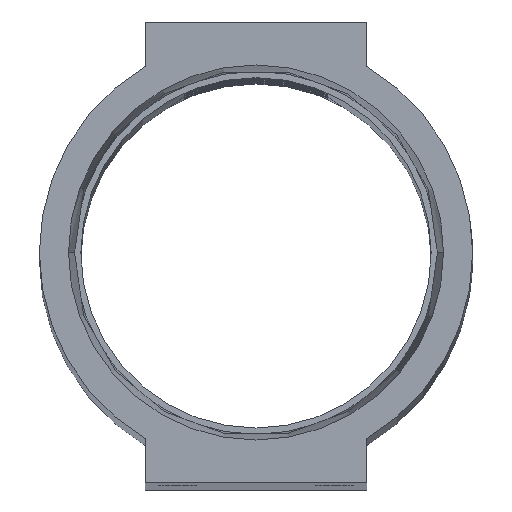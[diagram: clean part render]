
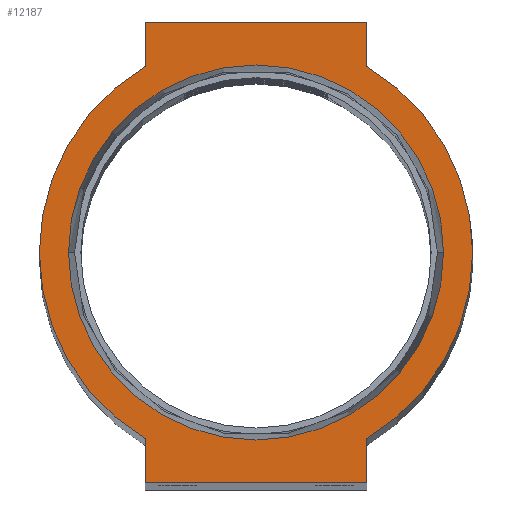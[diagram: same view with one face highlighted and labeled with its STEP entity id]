
A CAD part, top view. The second image highlights one B-rep face of the part: STEP entity #12187.
In plain terms, the highlighted planar face has unit normal (0, 0, 1).
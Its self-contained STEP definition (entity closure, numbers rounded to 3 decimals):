
#30 = VERTEX_POINT ( 'NONE', #8025 ) ;
#56 = ORIENTED_EDGE ( 'NONE', *, *, #9965, .T. ) ;
#72 = VERTEX_POINT ( 'NONE', #11130 ) ;
#82 = CARTESIAN_POINT ( 'NONE',  ( 0., 0., 0. ) ) ;
#160 = EDGE_CURVE ( 'NONE', #11906, #10627, #13453, .T. ) ;
#193 = EDGE_CURVE ( 'NONE', #13574, #7330, #330, .T. ) ;
#330 = LINE ( 'NONE', #12546, #8628 ) ;
#403 = ORIENTED_EDGE ( 'NONE', *, *, #12638, .T. ) ;
#655 = DIRECTION ( 'NONE',  ( 0., 0., 1. ) ) ;
#817 = AXIS2_PLACEMENT_3D ( 'NONE', #7957, #12325, #2494 ) ;
#863 = DIRECTION ( 'NONE',  ( 0., -1., 0. ) ) ;
#967 = ORIENTED_EDGE ( 'NONE', *, *, #13350, .T. ) ;
#1210 = CARTESIAN_POINT ( 'NONE',  ( 12., 25., 0. ) ) ;
#1326 = CARTESIAN_POINT ( 'NONE',  ( 0., 0., 0. ) ) ;
#1349 = ORIENTED_EDGE ( 'NONE', *, *, #12904, .F. ) ;
#1658 = DIRECTION ( 'NONE',  ( 1., 0., 0. ) ) ;
#1959 = EDGE_CURVE ( 'NONE', #5135, #30, #6470, .T. ) ;
#2039 = DIRECTION ( 'NONE',  ( 1., 0., 0. ) ) ;
#2112 = LINE ( 'NONE', #6640, #10724 ) ;
#2421 = AXIS2_PLACEMENT_3D ( 'NONE', #82, #5362, #10967 ) ;
#2494 = DIRECTION ( 'NONE',  ( 1., 0., 0. ) ) ;
#2522 = DIRECTION ( 'NONE',  ( 0., 1., 0. ) ) ;
#2624 = EDGE_LOOP ( 'NONE', ( #8074, #12745, #56, #13779, #5240, #967, #11526, #4794, #403 ) ) ;
#2712 = CARTESIAN_POINT ( 'NONE',  ( 12., -20.205, 0. ) ) ;
#2886 = VECTOR ( 'NONE', #2522, 1000. ) ;
#3345 = AXIS2_PLACEMENT_3D ( 'NONE', #7958, #6943, #11327 ) ;
#3409 = EDGE_LOOP ( 'NONE', ( #12599, #1349 ) ) ;
#4255 = AXIS2_PLACEMENT_3D ( 'NONE', #1326, #4569, #12315 ) ;
#4428 = EDGE_CURVE ( 'NONE', #7330, #5349, #12025, .T. ) ;
#4569 = DIRECTION ( 'NONE',  ( 0., 0., 1. ) ) ;
#4593 = VERTEX_POINT ( 'NONE', #4832 ) ;
#4709 = DIRECTION ( 'NONE',  ( 1., 0., 0. ) ) ;
#4794 = ORIENTED_EDGE ( 'NONE', *, *, #160, .T. ) ;
#4832 = CARTESIAN_POINT ( 'NONE',  ( 20.34, 0., 0. ) ) ;
#5135 = VERTEX_POINT ( 'NONE', #7195 ) ;
#5240 = ORIENTED_EDGE ( 'NONE', *, *, #1959, .T. ) ;
#5331 = CARTESIAN_POINT ( 'NONE',  ( -12., -25., 0. ) ) ;
#5349 = VERTEX_POINT ( 'NONE', #7900 ) ;
#5362 = DIRECTION ( 'NONE',  ( 0., 0., 1. ) ) ;
#5521 = VERTEX_POINT ( 'NONE', #6735 ) ;
#5822 = CARTESIAN_POINT ( 'NONE',  ( 12., 20.205, 0. ) ) ;
#6351 = CIRCLE ( 'NONE', #11613, 20.34 ) ;
#6470 = LINE ( 'NONE', #5331, #9774 ) ;
#6640 = CARTESIAN_POINT ( 'NONE',  ( -12., -25., 0. ) ) ;
#6720 = EDGE_CURVE ( 'NONE', #9802, #5135, #13456, .T. ) ;
#6735 = CARTESIAN_POINT ( 'NONE',  ( -20.34, 0., 0. ) ) ;
#6783 = DIRECTION ( 'NONE',  ( -1., 0., 0. ) ) ;
#6865 = EDGE_CURVE ( 'NONE', #4593, #5521, #6351, .T. ) ;
#6943 = DIRECTION ( 'NONE',  ( 0., 0., 1. ) ) ;
#7127 = EDGE_CURVE ( 'NONE', #72, #11906, #7990, .T. ) ;
#7137 = FACE_OUTER_BOUND ( 'NONE', #2624, .T. ) ;
#7195 = CARTESIAN_POINT ( 'NONE',  ( -12., -20.205, 0. ) ) ;
#7330 = VERTEX_POINT ( 'NONE', #1210 ) ;
#7581 = CARTESIAN_POINT ( 'NONE',  ( -12., 25., 0. ) ) ;
#7900 = CARTESIAN_POINT ( 'NONE',  ( -12., 25., 0. ) ) ;
#7944 = AXIS2_PLACEMENT_3D ( 'NONE', #11051, #13204, #4709 ) ;
#7957 = CARTESIAN_POINT ( 'NONE',  ( 0., 0., 0. ) ) ;
#7958 = CARTESIAN_POINT ( 'NONE',  ( 0., 0., 0. ) ) ;
#7990 = LINE ( 'NONE', #12357, #2886 ) ;
#8025 = CARTESIAN_POINT ( 'NONE',  ( -12., -25., 0. ) ) ;
#8074 = ORIENTED_EDGE ( 'NONE', *, *, #193, .T. ) ;
#8149 = CARTESIAN_POINT ( 'NONE',  ( -12., 25., 0. ) ) ;
#8395 = CARTESIAN_POINT ( 'NONE',  ( 23.5, 0., 0. ) ) ;
#8398 = CIRCLE ( 'NONE', #7944, 23.5 ) ;
#8424 = CARTESIAN_POINT ( 'NONE',  ( 0., 0., 0. ) ) ;
#8628 = VECTOR ( 'NONE', #10543, 1000. ) ;
#9309 = LINE ( 'NONE', #8149, #11579 ) ;
#9721 = CARTESIAN_POINT ( 'NONE',  ( -12., 20.205, 0. ) ) ;
#9774 = VECTOR ( 'NONE', #863, 1000. ) ;
#9802 = VERTEX_POINT ( 'NONE', #9721 ) ;
#9965 = EDGE_CURVE ( 'NONE', #5349, #9802, #9309, .T. ) ;
#10381 = DIRECTION ( 'NONE',  ( 0., -1., 0. ) ) ;
#10543 = DIRECTION ( 'NONE',  ( 0., 1., 0. ) ) ;
#10627 = VERTEX_POINT ( 'NONE', #8395 ) ;
#10724 = VECTOR ( 'NONE', #2039, 1000. ) ;
#10967 = DIRECTION ( 'NONE',  ( 1., 0., 0. ) ) ;
#11051 = CARTESIAN_POINT ( 'NONE',  ( 0., 0., 0. ) ) ;
#11130 = CARTESIAN_POINT ( 'NONE',  ( 12., -25., 0. ) ) ;
#11327 = DIRECTION ( 'NONE',  ( 1., 0., 0. ) ) ;
#11515 = PLANE ( 'NONE',  #4255 ) ;
#11526 = ORIENTED_EDGE ( 'NONE', *, *, #7127, .T. ) ;
#11579 = VECTOR ( 'NONE', #10381, 1000. ) ;
#11613 = AXIS2_PLACEMENT_3D ( 'NONE', #8424, #655, #1658 ) ;
#11906 = VERTEX_POINT ( 'NONE', #2712 ) ;
#12025 = LINE ( 'NONE', #7581, #12550 ) ;
#12187 = ADVANCED_FACE ( 'NONE', ( #13497, #7137 ), #11515, .T. ) ;
#12315 = DIRECTION ( 'NONE',  ( 1., 0., 0. ) ) ;
#12325 = DIRECTION ( 'NONE',  ( 0., 0., 1. ) ) ;
#12357 = CARTESIAN_POINT ( 'NONE',  ( 12., -25., 0. ) ) ;
#12546 = CARTESIAN_POINT ( 'NONE',  ( 12., 25., 0. ) ) ;
#12550 = VECTOR ( 'NONE', #6783, 1000. ) ;
#12599 = ORIENTED_EDGE ( 'NONE', *, *, #6865, .F. ) ;
#12638 = EDGE_CURVE ( 'NONE', #10627, #13574, #8398, .T. ) ;
#12745 = ORIENTED_EDGE ( 'NONE', *, *, #4428, .T. ) ;
#12904 = EDGE_CURVE ( 'NONE', #5521, #4593, #13958, .T. ) ;
#13204 = DIRECTION ( 'NONE',  ( 0., 0., 1. ) ) ;
#13350 = EDGE_CURVE ( 'NONE', #30, #72, #2112, .T. ) ;
#13453 = CIRCLE ( 'NONE', #817, 23.5 ) ;
#13456 = CIRCLE ( 'NONE', #2421, 23.5 ) ;
#13497 = FACE_BOUND ( 'NONE', #3409, .T. ) ;
#13574 = VERTEX_POINT ( 'NONE', #5822 ) ;
#13779 = ORIENTED_EDGE ( 'NONE', *, *, #6720, .T. ) ;
#13958 = CIRCLE ( 'NONE', #3345, 20.34 ) ;
